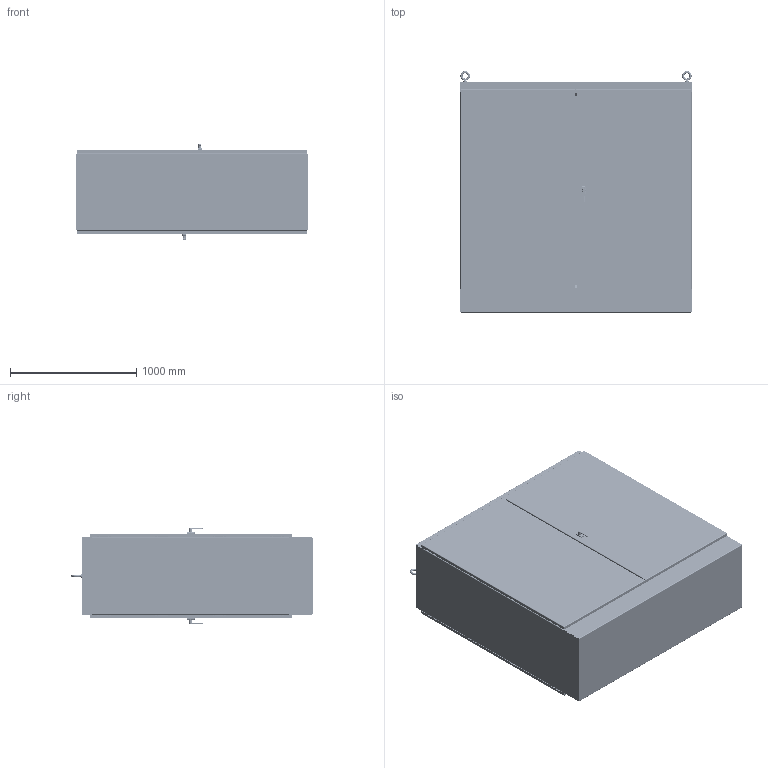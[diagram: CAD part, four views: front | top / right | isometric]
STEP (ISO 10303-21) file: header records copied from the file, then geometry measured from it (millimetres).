
FILE_DESCRIPTION (( 'STEP AP203' ), '1' );
FILE_NAME ('a727224fsdad.STEP', '2012-11-19T16:17:50', ( 'User' ), ( 'Pentair Inc' ), 'SwSTEP 2.0', 'SolidWorks 2010', '' );
FILE_SCHEMA (( 'CONFIG_CONTROL_DESIGN' ));
Products named in the file (52): 89089523; 89089512; 11258877_11258877; 89089527; 89089516; 10237003_10237003; 89085500; 87932883; 26108002; 99415273_Hex Nut; 89089340_DOOR EXPLODED; 89089328; 89089316; 24110001; 99401225_Config-Drawing; 89089353_DEFAULT; 23418001; 22318001; 87956539; 87922656; 26120009; 26384001; 26384101_SL-THMS 0.19-32x0.375x0.375-C; 26123007_26123007 ; 22108006; 22101005; 99401515; 26274015_26274015; 26273015_26273015; 30101003; 27115001; 22318002; 26118002_26118002; 89089334; 89089322; 89089310; 99404177_Config-Drawing; 89085464_60127101; 89089347_DEFAULT; 89089625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
Assembly tree (115 placements, depth 4):
  a727224fsdad
    89085489  x16
      60127135_Installed postion
      89085847
      60127199_60127199
      87790201_87790201
    87790199  x16
    89089340_DOOR EXPLODED  x2
      26384101_SL-THMS 0.19-32x0.375x0.375-C
      22108006
      26120009
      99401515
      87922656
      22318001
      87956539
      26274015_26274015
        30101003  x2
        26273015_26273015
        27115001
        22318002
      26384001
      26118002_26118002
      23418001
      89089353_DEFAULT
      89089328
        89085464_60127101  x4
        99401225_Config-Drawing  x2
        89089316
        24110001  x2
        99404177_Config-Drawing
      22101005
      26123007_26123007 
    89089534
      26108002  x2
      87932883  x2
      99415273_Hex Nut  x2
      89089523
        10237003_10237003
        89089512
        11258877_11258877  x2
      89089529  x2
        10237003_10237003
        89089518
      89085500  x2
      89089527
        89089516
        99404177_Config-Drawing  x4
        10237003_10237003
    89089334  x2
      89089347_DEFAULT
      89089930_Bottom
      89089930_Top
      89089625
      89089322
        89085464_60127101  x4
        89089310
        99404177_Config-Drawing
Bounding box: 1830.79 x 1913.06 x 758.48 mm (x, y, z)
Volume: 35979444.2 mm3; surface area: 28116943.6 mm2
Topology: 228 solids, 228 shells, 13194 faces, 31730 edges, 19128 vertices
Faces by surface type: plane 6994, cylinder 3956, bspline 1092, torus 556, cone 440, sphere 156
Entity records: 109370 total; most frequent: CARTESIAN_POINT 38173, ORIENTED_EDGE 13752, DIRECTION 12317, EDGE_CURVE 6876, VERTEX_POINT 4251, LINE 4183, VECTOR 4183, AXIS2_PLACEMENT_3D 4067
